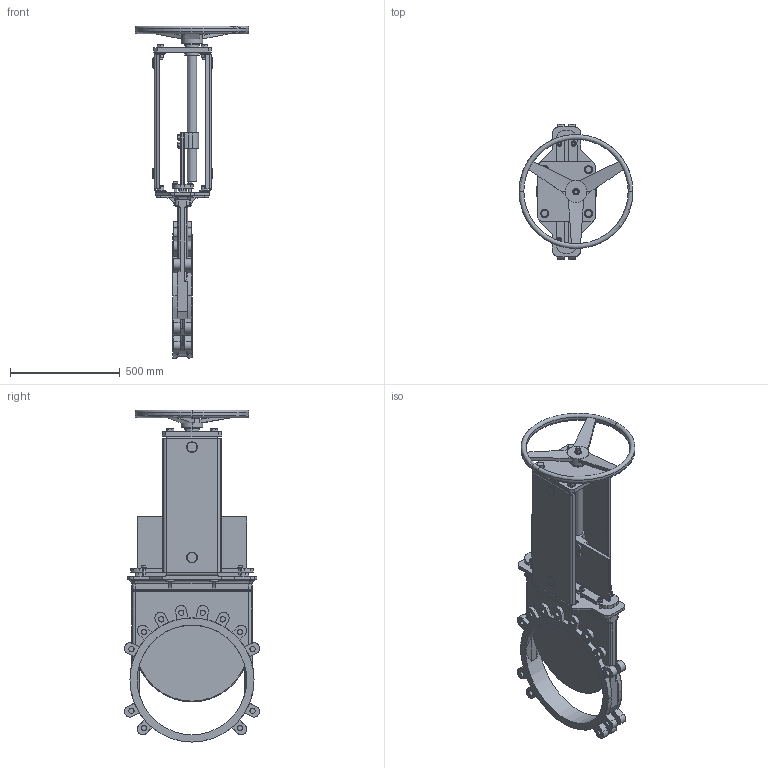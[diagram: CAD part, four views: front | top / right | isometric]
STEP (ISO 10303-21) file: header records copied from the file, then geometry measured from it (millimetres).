
FILE_DESCRIPTION(('STEP AP203'),'1');
FILE_NAME('F:/Alexander/tillfällig/NYABLOCK/WB-DN500-PN10-HW.stp','2013-03-14T10:42:50',(' '),(' '),'Spatial InterOp 3D',' ',' ');
FILE_SCHEMA(('CONFIG_CONTROL_DESIGN'));
Length unit declared in the file: millimetre
Products named in the file (8): 1; 2; 3; 4; 5; 6; 7; 8
Bounding box: 520 x 616.61 x 1514.5 mm (x, y, z)
Volume: 27037000.6 mm3; surface area: 3069068.3 mm2
Topology: 8 solids, 19 shells, 1335 faces, 3272 edges, 2059 vertices
Faces by surface type: plane 615, cylinder 377, cone 281, torus 46, bspline 16
Entity records: 44506 total; most frequent: CARTESIAN_POINT 13205, DIRECTION 6595, ORIENTED_EDGE 6536, EDGE_CURVE 3268, AXIS2_PLACEMENT_3D 2596, VERTEX_POINT 2059, EDGE_LOOP 1487, LINE 1403
